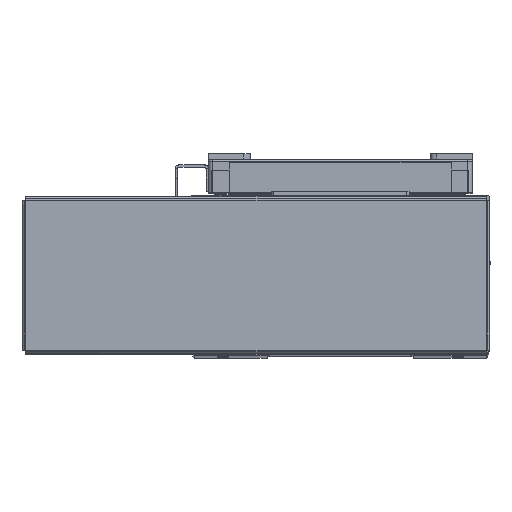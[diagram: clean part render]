
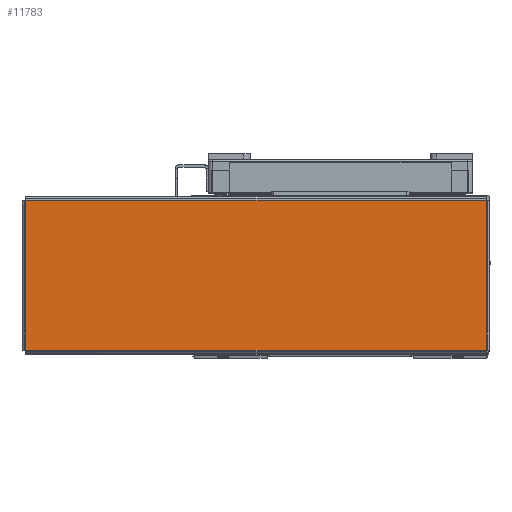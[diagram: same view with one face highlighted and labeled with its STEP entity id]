
A CAD part, top view. The second image highlights one B-rep face of the part: STEP entity #11783.
In plain terms, the highlighted planar face has unit normal (0, 0, 1) as drawn and (0, -1, 0) by its records, which use the part's own axes.
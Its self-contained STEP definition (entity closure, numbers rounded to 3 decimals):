
#11783 = ADVANCED_FACE ( 'NONE', ( #58175 ), #58479, .F. ) ;
#12593 = LINE ( 'NONE', #14970, #12594 ) ;
#12594 = VECTOR ( 'NONE', #14912, 1000. ) ;
#12597 = VECTOR ( 'NONE', #14835, 1000. ) ;
#12599 = VECTOR ( 'NONE', #14732, 1000. ) ;
#12603 = LINE ( 'NONE', #14809, #12597 ) ;
#12620 = LINE ( 'NONE', #14770, #12599 ) ;
#13373 = LINE ( 'NONE', #18063, #13390 ) ;
#13390 = VECTOR ( 'NONE', #18059, 1000. ) ;
#14732 = DIRECTION ( 'NONE',  ( -1., 0., 0. ) ) ;
#14770 = CARTESIAN_POINT ( 'NONE',  ( 103.793, -1., 33.763 ) ) ;
#14809 = CARTESIAN_POINT ( 'NONE',  ( -103.793, -1., -33.763 ) ) ;
#14835 = DIRECTION ( 'NONE',  ( 1., 0., 0. ) ) ;
#14912 = DIRECTION ( 'NONE',  ( 0., 0., 1. ) ) ;
#14970 = CARTESIAN_POINT ( 'NONE',  ( 103.763, -1., -33.793 ) ) ;
#18059 = DIRECTION ( 'NONE',  ( 0., 0., -1. ) ) ;
#18063 = CARTESIAN_POINT ( 'NONE',  ( -103.763, -1., 33.793 ) ) ;
#23605 = CARTESIAN_POINT ( 'NONE',  ( 103.763, -1., 33.763 ) ) ;
#23656 = CARTESIAN_POINT ( 'NONE',  ( 103.763, -1., -33.763 ) ) ;
#23662 = CARTESIAN_POINT ( 'NONE',  ( -103.763, -1., 33.763 ) ) ;
#23755 = CARTESIAN_POINT ( 'NONE',  ( -103.763, -1., -33.763 ) ) ;
#28039 = ORIENTED_EDGE ( 'NONE', *, *, #30733, .T. ) ;
#28058 = ORIENTED_EDGE ( 'NONE', *, *, #30754, .T. ) ;
#28066 = ORIENTED_EDGE ( 'NONE', *, *, #30740, .T. ) ;
#28140 = ORIENTED_EDGE ( 'NONE', *, *, #31212, .T. ) ;
#30088 = EDGE_LOOP ( 'NONE', ( #28039, #28140, #28066, #28058 ) ) ;
#30733 = EDGE_CURVE ( 'NONE', #54962, #55076, #12620, .T. ) ;
#30740 = EDGE_CURVE ( 'NONE', #55186, #55075, #12603, .T. ) ;
#30754 = EDGE_CURVE ( 'NONE', #55075, #54962, #12593, .T. ) ;
#31212 = EDGE_CURVE ( 'NONE', #55076, #55186, #13373, .T. ) ;
#53551 = AXIS2_PLACEMENT_3D ( 'NONE', #58454, #58496, #58456 ) ;
#54962 = VERTEX_POINT ( 'NONE', #23605 ) ;
#55075 = VERTEX_POINT ( 'NONE', #23656 ) ;
#55076 = VERTEX_POINT ( 'NONE', #23662 ) ;
#55186 = VERTEX_POINT ( 'NONE', #23755 ) ;
#58175 = FACE_OUTER_BOUND ( 'NONE', #30088, .T. ) ;
#58454 = CARTESIAN_POINT ( 'NONE',  ( 0., -1., 0. ) ) ;
#58456 = DIRECTION ( 'NONE',  ( 0., 0., 1. ) ) ;
#58479 = PLANE ( 'NONE',  #53551 ) ;
#58496 = DIRECTION ( 'NONE',  ( 0., 1., 0. ) ) ;
